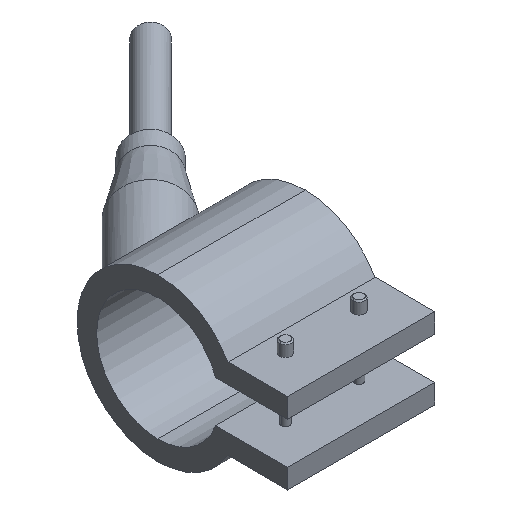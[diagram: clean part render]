
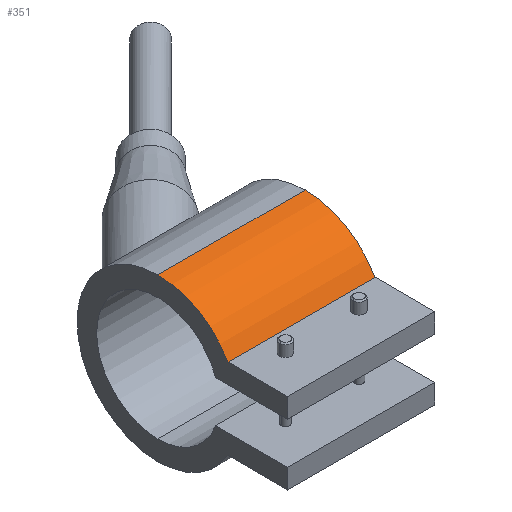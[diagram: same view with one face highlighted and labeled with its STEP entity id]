
A CAD part, isometric view. The second image highlights one B-rep face of the part: STEP entity #351.
In plain terms, the highlighted cylindrical face has radius 16.5 mm (diameter 33 mm), a partial arc.
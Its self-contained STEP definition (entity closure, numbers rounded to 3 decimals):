
#231=CARTESIAN_POINT('Line Origine',(15.,0.,16.5)) ;
#235=CARTESIAN_POINT('Vertex',(15.,0.,16.5)) ;
#237=CARTESIAN_POINT('Vertex',(-15.,0.,16.5)) ;
#321=CARTESIAN_POINT('Axis2P3D Location',(15.,0.,0.)) ;
#326=CARTESIAN_POINT('Axis2P3D Location',(-15.,0.,0.)) ;
#330=CARTESIAN_POINT('Vertex',(-15.,-14.289,8.25)) ;
#333=CARTESIAN_POINT('Line Origine',(15.,-14.289,8.25)) ;
#337=CARTESIAN_POINT('Vertex',(15.,-14.289,8.25)) ;
#340=CARTESIAN_POINT('Axis2P3D Location',(15.,0.,0.)) ;
#232=DIRECTION('Vector Direction',(1.,0.,0.)) ;
#322=DIRECTION('Axis2P3D Direction',(1.,0.,-0.)) ;
#323=DIRECTION('Axis2P3D XDirection',(0.,0.,1.)) ;
#327=DIRECTION('Axis2P3D Direction',(1.,0.,-0.)) ;
#334=DIRECTION('Vector Direction',(1.,0.,0.)) ;
#341=DIRECTION('Axis2P3D Direction',(1.,0.,-0.)) ;
#324=AXIS2_PLACEMENT_3D('Cylinder Axis2P3D',#321,#322,#323) ;
#328=AXIS2_PLACEMENT_3D('Circle Axis2P3D',#326,#327,$) ;
#342=AXIS2_PLACEMENT_3D('Circle Axis2P3D',#340,#341,$) ;
#346=ORIENTED_EDGE('',*,*,#239,.T.) ;
#347=ORIENTED_EDGE('',*,*,#332,.T.) ;
#348=ORIENTED_EDGE('',*,*,#339,.F.) ;
#349=ORIENTED_EDGE('',*,*,#344,.F.) ;
#233=VECTOR('Line Direction',#232,1.) ;
#335=VECTOR('Line Direction',#334,1.) ;
#351=ADVANCED_FACE('29025030',(#350),#325,.T.) ;
#329=CIRCLE('generated circle',#328,16.5) ;
#343=CIRCLE('generated circle',#342,16.5) ;
#325=CYLINDRICAL_SURFACE('generated cylinder',#324,16.5) ;
#239=EDGE_CURVE('',#236,#238,#234,.F.) ;
#332=EDGE_CURVE('',#238,#331,#329,.T.) ;
#339=EDGE_CURVE('',#338,#331,#336,.F.) ;
#344=EDGE_CURVE('',#236,#338,#343,.T.) ;
#345=EDGE_LOOP('',(#346,#347,#348,#349)) ;
#350=FACE_OUTER_BOUND('',#345,.T.) ;
#234=LINE('Line',#231,#233) ;
#336=LINE('Line',#333,#335) ;
#236=VERTEX_POINT('',#235) ;
#238=VERTEX_POINT('',#237) ;
#331=VERTEX_POINT('',#330) ;
#338=VERTEX_POINT('',#337) ;
